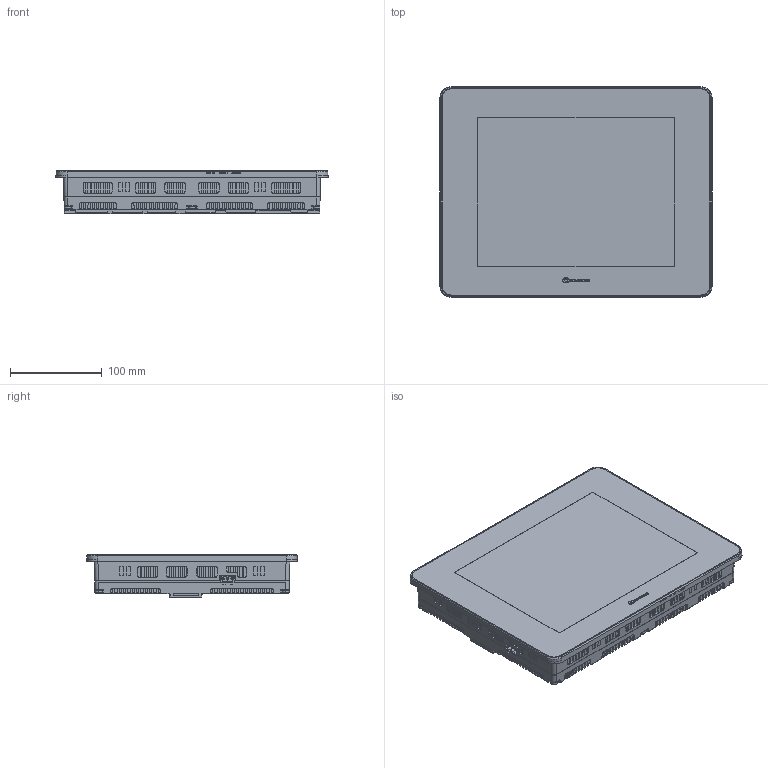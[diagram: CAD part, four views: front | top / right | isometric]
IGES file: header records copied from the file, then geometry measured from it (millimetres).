
Start section: SolidWorks IGES file using analytic representation for surfaces
Global section: file name: D:\Project\UniStream\CAD Files\3D\IGES\UniStream Panel 10.4inch.IGS; native system: SolidWorks 2011; preprocessor: SolidWorks 2011; author: baraki; date: 141020.092631; units: millimetre
Bounding box: 295.89 x 228.79 x 46.85 mm (x, y, z)
Surface area: 216479.1 mm2 (no closed solid volume)
Topology: 0 solids, 0 shells, 3939 faces, 34791 edges, 34767 vertices
Faces by surface type: bspline 2927, revolution 1012
